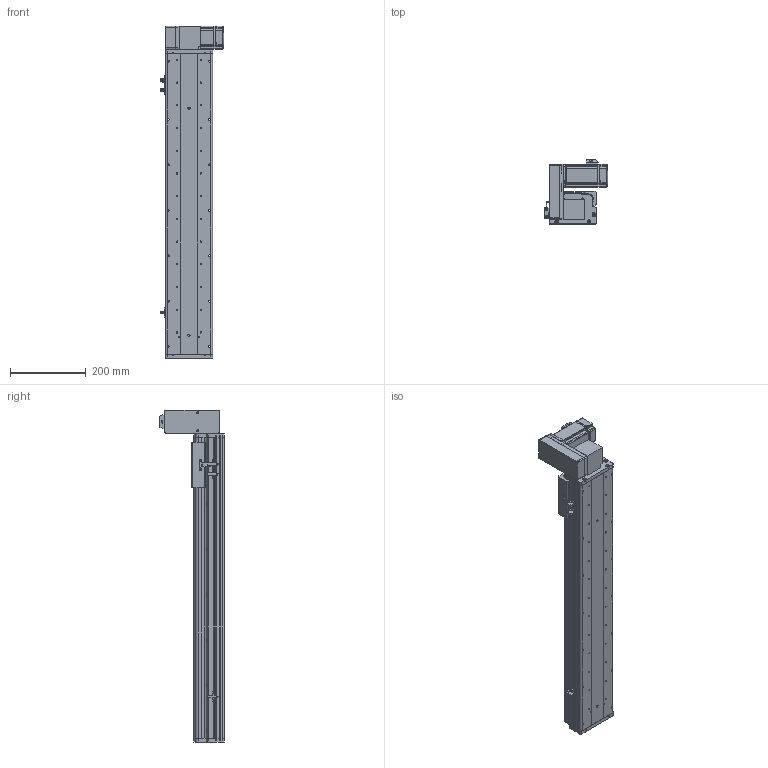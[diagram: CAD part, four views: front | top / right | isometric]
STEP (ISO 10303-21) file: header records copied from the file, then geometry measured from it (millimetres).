
FILE_DESCRIPTION (( 'STEP AP214' ), '1' );
FILE_NAME ('KSD125B-S600-MRU-CM.STEP', '2017-10-21T07:29:52', ( '微软用户' ), ( '微软中国' ), 'SwSTEP 2.0', 'SolidWorks 2014', '' );
FILE_SCHEMA (( 'AUTOMOTIVE_DESIGN' ));
Length unit declared in the file: millimetre
Products named in the file (17): KSD125模组同步带-防撞垫2; 覜茼え68遵圉猾敕; U倰嫖萇假蚾璃; U倰嫖萇EEㄜSX672; KSD125模组同步带-防撞垫1; 100宽马达安装板同步带右; 前端板-125宽模组同步带; 125模组同步带-尾端板1; KSD125模组同步带-滑动座1; KSD125B-S600-MRU-CM; 悵誘欶奻狟殏; HTPA30S3M150_A_H6_a佪裝蚚; HTPA30S3M150_A_H6_a萇儂蚚; 100宽马达安装板连板上下折丝杆同步带; KSD125模组600行程同步带-防尘盖; 125模组600行程同步带-底板; MHMD042G1CA_2_03
Assembly tree (20 placements, depth 2):
  KSD125B-S600-MRU-CM
    KSD125模组同步带-滑动座1
    125模组同步带-尾端板1
    前端板-125宽模组同步带
    100宽马达安装板同步带右
    KSD125模组同步带-防撞垫1
    U倰嫖萇EEㄜSX672  x3
    U倰嫖萇假蚾璃  x3
    覜茼え68遵圉猾敕
    KSD125模组同步带-防撞垫2
    MHMD042G1CA_2_03
    125模组600行程同步带-底板
    KSD125模组600行程同步带-防尘盖
    100宽马达安装板连板上下折丝杆同步带
    HTPA30S3M150_A_H6_a萇儂蚚
    HTPA30S3M150_A_H6_a佪裝蚚
    悵誘欶奻狟殏
Bounding box: 168.7 x 170.5 x 877 mm (x, y, z)
Volume: 2858247.2 mm3; surface area: 984083.2 mm2
Topology: 19 solids, 22 shells, 2257 faces, 6535 edges, 4318 vertices
Faces by surface type: cylinder 1408, plane 722, cone 105, bspline 22
Entity records: 80093 total; most frequent: CARTESIAN_POINT 15825, DIRECTION 12456, ORIENTED_EDGE 11590, EDGE_CURVE 5873, AXIS2_PLACEMENT_3D 4809, VERTEX_POINT 3910, VECTOR 2838, LINE 2838
